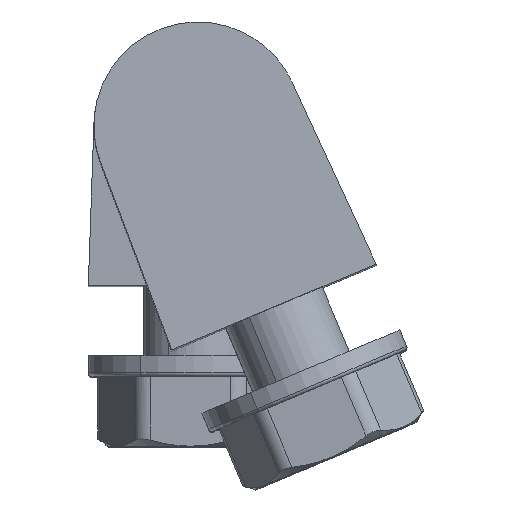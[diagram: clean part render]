
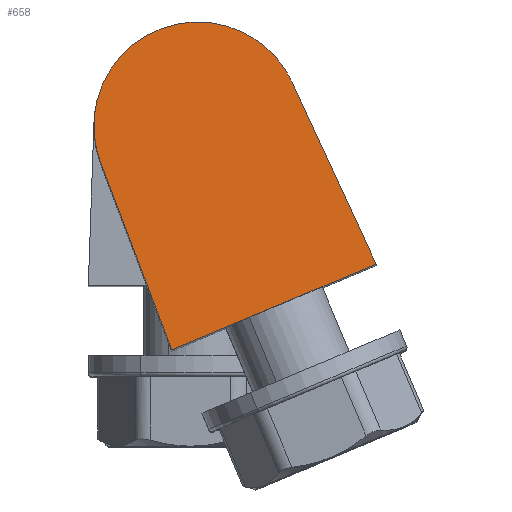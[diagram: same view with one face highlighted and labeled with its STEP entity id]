
A CAD part, top view. The second image highlights one B-rep face of the part: STEP entity #658.
In plain terms, the highlighted planar face has unit normal (-0.021, 0.056, 0.998) as drawn and (-0.002, 0.059, -0.998) by its records, which use the part's own axes.
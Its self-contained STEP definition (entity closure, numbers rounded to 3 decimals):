
#605 = VERTEX_POINT ( 'NONE', #2474 ) ;
#607 = EDGE_CURVE ( 'NONE', #608, #605, #2473, .T. ) ;
#608 = VERTEX_POINT ( 'NONE', #2469 ) ;
#618 = EDGE_CURVE ( 'NONE', #619, #620, #2517, .T. ) ;
#619 = VERTEX_POINT ( 'NONE', #2513 ) ;
#620 = VERTEX_POINT ( 'NONE', #2512 ) ;
#658 = ADVANCED_FACE ( 'NONE', ( #2573 ), #2572, .F. ) ;
#659 = EDGE_LOOP ( 'NONE', ( #660, #661, #716, #717 ) ) ;
#660 = ORIENTED_EDGE ( 'NONE', *, *, #607, .T. ) ;
#661 = ORIENTED_EDGE ( 'NONE', *, *, #715, .T. ) ;
#668 = EDGE_CURVE ( 'NONE', #608, #619, #2613, .T. ) ;
#715 = EDGE_CURVE ( 'NONE', #605, #620, #2657, .T. ) ;
#716 = ORIENTED_EDGE ( 'NONE', *, *, #618, .F. ) ;
#717 = ORIENTED_EDGE ( 'NONE', *, *, #668, .F. ) ;
#2469 = CARTESIAN_POINT ( 'NONE',  ( 12.448, 15.902, 0.946 ) ) ;
#2470 = DIRECTION ( 'NONE',  ( 0.035, -0.998, -0.059 ) ) ;
#2471 = VECTOR ( 'NONE', #2470, 1000. ) ;
#2472 = CARTESIAN_POINT ( 'NONE',  ( 13., 0., 0. ) ) ;
#2473 = LINE ( 'NONE', #2472, #2471 ) ;
#2474 = CARTESIAN_POINT ( 'NONE',  ( 12.846, 4.447, 0.265 ) ) ;
#2512 = CARTESIAN_POINT ( 'NONE',  ( 0.154, 4.447, 0.291 ) ) ;
#2513 = CARTESIAN_POINT ( 'NONE',  ( 0.552, 15.902, 0.971 ) ) ;
#2514 = DIRECTION ( 'NONE',  ( -0.035, -0.998, -0.059 ) ) ;
#2515 = VECTOR ( 'NONE', #2514, 1000. ) ;
#2516 = CARTESIAN_POINT ( 'NONE',  ( 0.648, 18.651, 1.134 ) ) ;
#2517 = LINE ( 'NONE', #2516, #2515 ) ;
#2568 = DIRECTION ( 'NONE',  ( 0., -0.998, -0.059 ) ) ;
#2569 = DIRECTION ( 'NONE',  ( 0.002, -0.059, 0.998 ) ) ;
#2570 = CARTESIAN_POINT ( 'NONE',  ( 0.016, -0.451, 0. ) ) ;
#2571 = AXIS2_PLACEMENT_3D ( 'NONE', #2570, #2569, #2568 ) ;
#2572 = PLANE ( 'NONE',  #2571 ) ;
#2573 = FACE_OUTER_BOUND ( 'NONE', #659, .T. ) ;
#2609 = CARTESIAN_POINT ( 'NONE',  ( 0.552, 15.902, 0.971 ) ) ;
#2610 = CARTESIAN_POINT ( 'NONE',  ( 0.938, 27.019, 1.63 ) ) ;
#2611 = CARTESIAN_POINT ( 'NONE',  ( 12.062, 27.019, 1.608 ) ) ;
#2612 = CARTESIAN_POINT ( 'NONE',  ( 12.448, 15.902, 0.946 ) ) ;
#2613 =( BOUNDED_CURVE ( )  B_SPLINE_CURVE ( 3, ( #2612, #2611, #2610, #2609 ),
 .UNSPECIFIED., .F., .T. ) 
 B_SPLINE_CURVE_WITH_KNOTS ( ( 4, 4 ),
 ( 1.571, 4.643 ),
 .UNSPECIFIED. ) 
 CURVE ( )  GEOMETRIC_REPRESENTATION_ITEM ( )  RATIONAL_B_SPLINE_CURVE ( ( 1., 0.356, 0.356, 1. ) ) 
 REPRESENTATION_ITEM ( '' )  );
#2654 = DIRECTION ( 'NONE',  ( -1., 0., 0.002 ) ) ;
#2655 = VECTOR ( 'NONE', #2654, 1000. ) ;
#2656 = CARTESIAN_POINT ( 'NONE',  ( 0.016, 4.447, 0.291 ) ) ;
#2657 = LINE ( 'NONE', #2656, #2655 ) ;
